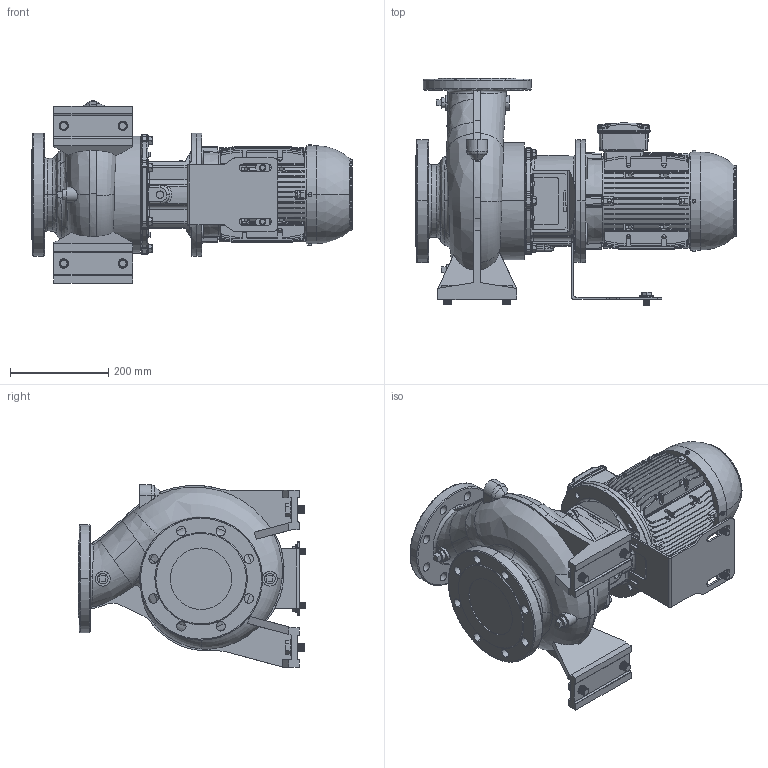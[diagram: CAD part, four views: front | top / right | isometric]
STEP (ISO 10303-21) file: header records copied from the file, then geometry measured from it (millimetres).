
FILE_DESCRIPTION (( 'STEP AP214' ), '1' );
FILE_NAME ('GSD4 100-160_2.2 & 3.0_(100L)_W21.STEP', '2026-07-01T05:51:01', ( '' ), ( '' ), 'SwSTEP 2.0', 'SolidWorks 2024', '' );
FILE_SCHEMA (( 'AUTOMOTIVE_DESIGN' ));
Length unit declared in the file: millimetre
Products named in the file (8): CGSD1-4173; Parametric Flat Washer_M16; 100L ALIE3_W21T_B5; Parametric bolt_SFT-A295B; Parametric bolt_SFT-A351B; Parametric Flat Washer_M12; GSD4 100-160_2.2 & 3.0_(100L)_W21; 100-160-100L_ﾃﾞﾌｫﾙﾄ
Assembly tree (15 placements, depth 2):
  GSD4 100-160_2.2 & 3.0_(100L)_W21
    100-160-100L_ﾃﾞﾌｫﾙﾄ
    100L ALIE3_W21T_B5
    CGSD1-4173
    Parametric bolt_SFT-A295B  x2
    Parametric bolt_SFT-A351B  x4
    Parametric Flat Washer_M16  x4
    Parametric Flat Washer_M12  x2
Bounding box: 652.1 x 463 x 371 mm (x, y, z)
Volume: 24136760.8 mm3; surface area: 1558524.1 mm2
Topology: 18 solids, 18 shells, 3521 faces, 9129 edges, 5873 vertices
Faces by surface type: plane 2010, cylinder 826, bspline 271, torus 245, cone 155, sphere 14
Entity records: 185185 total; most frequent: CARTESIAN_POINT 106749, ORIENTED_EDGE 17044, DIRECTION 14972, EDGE_CURVE 8522, VERTEX_POINT 5493, VECTOR 5278, LINE 5278, AXIS2_PLACEMENT_3D 4847
